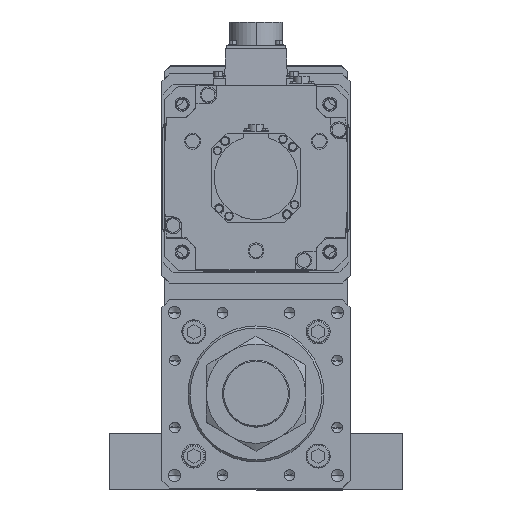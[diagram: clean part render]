
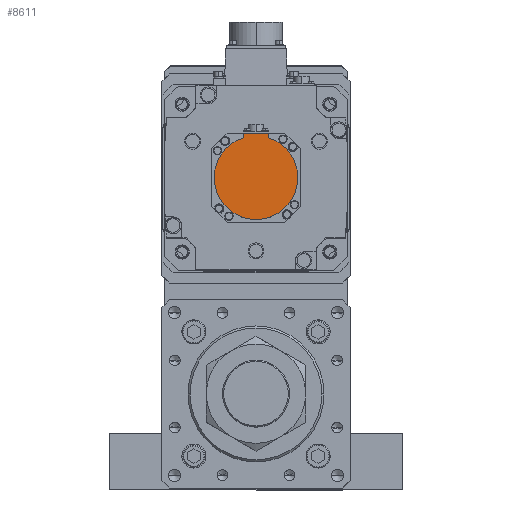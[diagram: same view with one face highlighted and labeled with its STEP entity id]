
A CAD part, top view. The second image highlights one B-rep face of the part: STEP entity #8611.
In plain terms, the highlighted planar face has unit normal (0, 0, 1) as drawn and (0, 0, -1) by its records, which use the part's own axes.
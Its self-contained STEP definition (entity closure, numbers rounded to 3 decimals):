
#1363 = CARTESIAN_POINT ( 'NONE',  ( 0., 0., -268. ) ) ;
#1856 = AXIS2_PLACEMENT_3D ( 'NONE', #34484, #43173, #33734 ) ;
#3091 = CARTESIAN_POINT ( 'NONE',  ( 0., -1.25, -268. ) ) ;
#4978 = VERTEX_POINT ( 'NONE', #9572 ) ;
#7886 = AXIS2_PLACEMENT_3D ( 'NONE', #26724, #52599, #27085 ) ;
#8545 = DIRECTION ( 'NONE',  ( 1., 0., 0. ) ) ;
#8611 = ADVANCED_FACE ( 'NONE', ( #30812 ), #20860, .F. ) ;
#9572 = CARTESIAN_POINT ( 'NONE',  ( -12., -42.5, -268. ) ) ;
#9757 = ORIENTED_EDGE ( 'NONE', *, *, #36900, .F. ) ;
#12396 = AXIS2_PLACEMENT_3D ( 'NONE', #1363, #23060, #23605 ) ;
#12447 = ORIENTED_EDGE ( 'NONE', *, *, #34561, .T. ) ;
#12837 = VERTEX_POINT ( 'NONE', #14620 ) ;
#13963 = EDGE_CURVE ( 'NONE', #39577, #45050, #41185, .T. ) ;
#14620 = CARTESIAN_POINT ( 'NONE',  ( -12., -38.158, -268. ) ) ;
#18600 = ORIENTED_EDGE ( 'NONE', *, *, #48736, .F. ) ;
#18806 = EDGE_CURVE ( 'NONE', #49186, #4978, #20804, .T. ) ;
#20804 = LINE ( 'NONE', #53425, #50997 ) ;
#20860 = PLANE ( 'NONE',  #28337 ) ;
#21685 = CARTESIAN_POINT ( 'NONE',  ( 40., 0., -268. ) ) ;
#23060 = DIRECTION ( 'NONE',  ( 0., 0., 1. ) ) ;
#23605 = DIRECTION ( 'NONE',  ( 1., 0., 0. ) ) ;
#25159 = DIRECTION ( 'NONE',  ( 0., 0., 1. ) ) ;
#25861 = ORIENTED_EDGE ( 'NONE', *, *, #18806, .T. ) ;
#26724 = CARTESIAN_POINT ( 'NONE',  ( 0., 0., -268. ) ) ;
#27085 = DIRECTION ( 'NONE',  ( 1., 0., 0. ) ) ;
#27201 = CARTESIAN_POINT ( 'NONE',  ( -40., 0., -268. ) ) ;
#28258 = LINE ( 'NONE', #36389, #37017 ) ;
#28337 = AXIS2_PLACEMENT_3D ( 'NONE', #3091, #25159, #8545 ) ;
#29100 = VERTEX_POINT ( 'NONE', #27201 ) ;
#30812 = FACE_OUTER_BOUND ( 'NONE', #46106, .T. ) ;
#32024 = DIRECTION ( 'NONE',  ( -1., 0., 0. ) ) ;
#32419 = DIRECTION ( 'NONE',  ( 0., 1., 0. ) ) ;
#32499 = CIRCLE ( 'NONE', #12396, 40. ) ;
#32568 = CARTESIAN_POINT ( 'NONE',  ( 12., -38.158, -268. ) ) ;
#32752 = CIRCLE ( 'NONE', #7886, 40. ) ;
#33734 = DIRECTION ( 'NONE',  ( 1., 0., 0. ) ) ;
#34484 = CARTESIAN_POINT ( 'NONE',  ( 0., 0., -268. ) ) ;
#34561 = EDGE_CURVE ( 'NONE', #4978, #12837, #28258, .T. ) ;
#35339 = CARTESIAN_POINT ( 'NONE',  ( 12., -1.25, -268. ) ) ;
#36389 = CARTESIAN_POINT ( 'NONE',  ( -12., -40.329, -268. ) ) ;
#36900 = EDGE_CURVE ( 'NONE', #45050, #29100, #32499, .T. ) ;
#37017 = VECTOR ( 'NONE', #32419, 1000. ) ;
#37934 = LINE ( 'NONE', #35339, #38650 ) ;
#38650 = VECTOR ( 'NONE', #51867, 1000. ) ;
#39577 = VERTEX_POINT ( 'NONE', #32568 ) ;
#41185 = CIRCLE ( 'NONE', #1856, 40. ) ;
#42126 = ORIENTED_EDGE ( 'NONE', *, *, #42517, .F. ) ;
#42517 = EDGE_CURVE ( 'NONE', #29100, #12837, #32752, .T. ) ;
#43173 = DIRECTION ( 'NONE',  ( 0., 0., 1. ) ) ;
#45050 = VERTEX_POINT ( 'NONE', #21685 ) ;
#46106 = EDGE_LOOP ( 'NONE', ( #12447, #42126, #9757, #46968, #18600, #25861 ) ) ;
#46968 = ORIENTED_EDGE ( 'NONE', *, *, #13963, .F. ) ;
#48736 = EDGE_CURVE ( 'NONE', #49186, #39577, #37934, .T. ) ;
#49186 = VERTEX_POINT ( 'NONE', #50688 ) ;
#50688 = CARTESIAN_POINT ( 'NONE',  ( 12., -42.5, -268. ) ) ;
#50997 = VECTOR ( 'NONE', #32024, 1000. ) ;
#51867 = DIRECTION ( 'NONE',  ( 0., 1., 0. ) ) ;
#52599 = DIRECTION ( 'NONE',  ( 0., 0., 1. ) ) ;
#53425 = CARTESIAN_POINT ( 'NONE',  ( 0., -42.5, -268. ) ) ;
